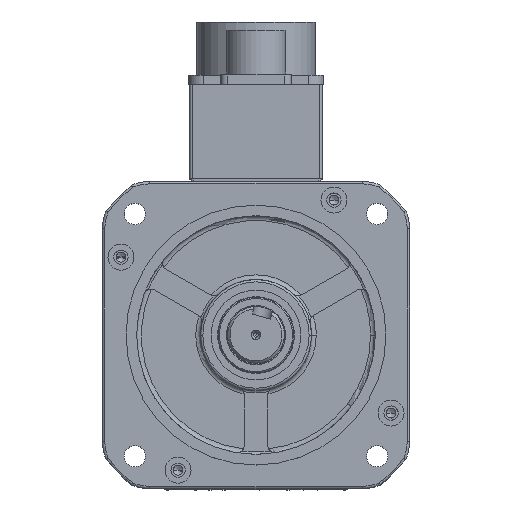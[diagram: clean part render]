
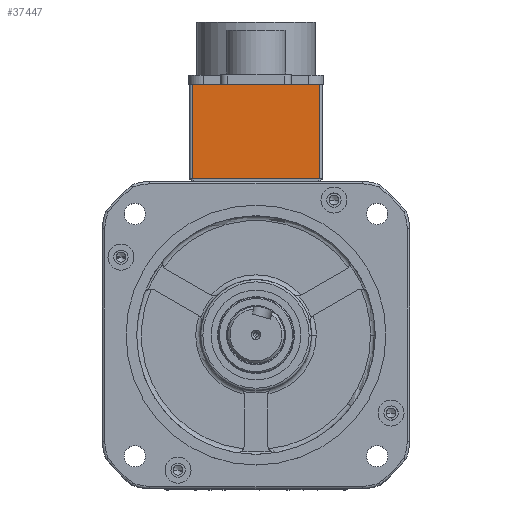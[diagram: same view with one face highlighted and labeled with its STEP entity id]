
A CAD part, top view. The second image highlights one B-rep face of the part: STEP entity #37447.
In plain terms, the highlighted planar face has unit normal (0, 0, 1) as drawn and (-1, 0, 0) by its records, which use the part's own axes.
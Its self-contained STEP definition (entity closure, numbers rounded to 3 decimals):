
#1173 = AXIS2_PLACEMENT_3D ( 'NONE', #45978, #31040, #53610 ) ;
#5835 = PLANE ( 'NONE',  #1173 ) ;
#6348 = DIRECTION ( 'NONE',  ( 0., 0., 1. ) ) ;
#7198 = CARTESIAN_POINT ( 'NONE',  ( -66., -27., 0. ) ) ;
#9105 = ORIENTED_EDGE ( 'NONE', *, *, #14965, .T. ) ;
#9317 = CARTESIAN_POINT ( 'NONE',  ( -66., 27., -40. ) ) ;
#12737 = CARTESIAN_POINT ( 'NONE',  ( -66., 27., 0. ) ) ;
#13102 = LINE ( 'NONE', #52186, #36470 ) ;
#14965 = EDGE_CURVE ( 'NONE', #58083, #21788, #43242, .T. ) ;
#18455 = LINE ( 'NONE', #12737, #45963 ) ;
#19130 = ORIENTED_EDGE ( 'NONE', *, *, #34234, .F. ) ;
#21788 = VERTEX_POINT ( 'NONE', #46435 ) ;
#24193 = DIRECTION ( 'NONE',  ( 0., -1., 0. ) ) ;
#30400 = ORIENTED_EDGE ( 'NONE', *, *, #32892, .F. ) ;
#31040 = DIRECTION ( 'NONE',  ( -1., 0., 0. ) ) ;
#32493 = CARTESIAN_POINT ( 'NONE',  ( -66., 27., -40. ) ) ;
#32527 = VERTEX_POINT ( 'NONE', #7198 ) ;
#32892 = EDGE_CURVE ( 'NONE', #58083, #67205, #41128, .T. ) ;
#34234 = EDGE_CURVE ( 'NONE', #67205, #32527, #18455, .T. ) ;
#34877 = FACE_OUTER_BOUND ( 'NONE', #63916, .T. ) ;
#35006 = CARTESIAN_POINT ( 'NONE',  ( -66., 27., -40. ) ) ;
#36470 = VECTOR ( 'NONE', #54388, 1000. ) ;
#36634 = EDGE_CURVE ( 'NONE', #21788, #32527, #13102, .T. ) ;
#37447 = ADVANCED_FACE ( 'NONE', ( #34877 ), #5835, .T. ) ;
#41128 = LINE ( 'NONE', #35006, #43577 ) ;
#43242 = LINE ( 'NONE', #32493, #45384 ) ;
#43577 = VECTOR ( 'NONE', #6348, 1000. ) ;
#45384 = VECTOR ( 'NONE', #54338, 1000. ) ;
#45963 = VECTOR ( 'NONE', #24193, 1000. ) ;
#45978 = CARTESIAN_POINT ( 'NONE',  ( -66., 27., -40. ) ) ;
#46435 = CARTESIAN_POINT ( 'NONE',  ( -66., -27., -40. ) ) ;
#49683 = CARTESIAN_POINT ( 'NONE',  ( -66., 27., 0. ) ) ;
#52186 = CARTESIAN_POINT ( 'NONE',  ( -66., -27., -40. ) ) ;
#53610 = DIRECTION ( 'NONE',  ( 0., -1., 0. ) ) ;
#54338 = DIRECTION ( 'NONE',  ( 0., -1., 0. ) ) ;
#54388 = DIRECTION ( 'NONE',  ( 0., 0., 1. ) ) ;
#58083 = VERTEX_POINT ( 'NONE', #9317 ) ;
#60195 = ORIENTED_EDGE ( 'NONE', *, *, #36634, .T. ) ;
#63916 = EDGE_LOOP ( 'NONE', ( #19130, #30400, #9105, #60195 ) ) ;
#67205 = VERTEX_POINT ( 'NONE', #49683 ) ;
